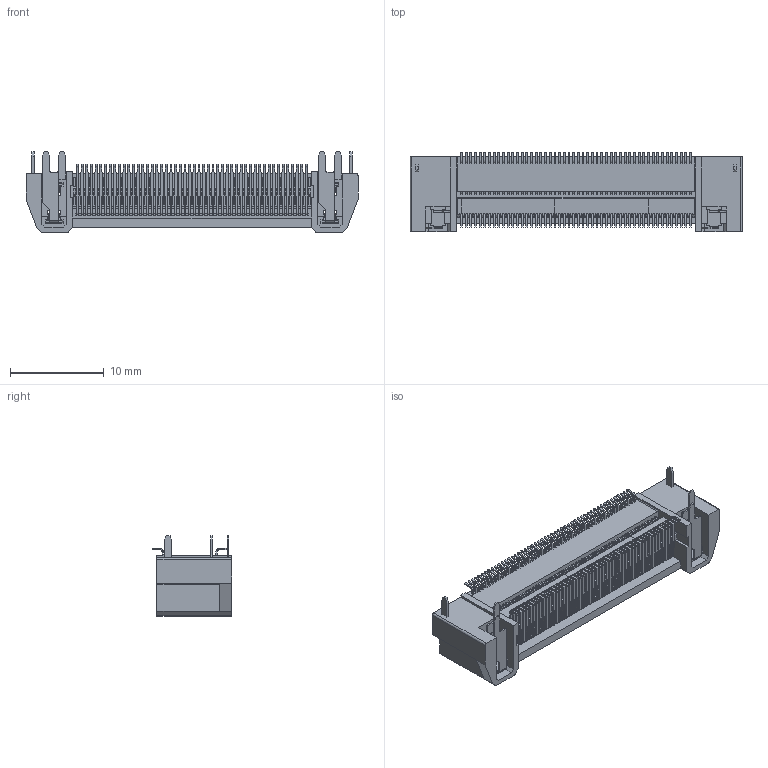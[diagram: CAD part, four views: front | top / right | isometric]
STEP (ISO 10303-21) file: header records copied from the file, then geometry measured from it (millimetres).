
FILE_DESCRIPTION (( 'STEP AP214' ), '1' );
FILE_NAME ('2631-100FG03DRNT-1141112.STEP', '2025-11-12T06:25:53', ( '' ), ( '' ), 'SwSTEP 2.0', 'SolidWorks 2020', '' );
FILE_SCHEMA (( 'AUTOMOTIVE_DESIGN' ));
Length unit declared in the file: millimetre
Products named in the file (2): 2631-100FG03DRNT-1141112
Assembly tree (1 placements, depth 2):
  2631-100FG03DRNT-1141112
    2631-100FG03DRNT-1141112
Bounding box: 35.5 x 8.5 x 8.65 mm (x, y, z)
Volume: 928.8 mm3; surface area: 3452.6 mm2
Topology: 109 solids, 109 shells, 6969 faces, 19322 edges, 12666 vertices
Faces by surface type: plane 5495, cylinder 1474
Entity records: 267763 total; most frequent: CARTESIAN_POINT 43761, ORIENTED_EDGE 38644, DIRECTION 33416, EDGE_CURVE 19322, LINE 15974, VECTOR 15974, VERTEX_POINT 12666, AXIS2_PLACEMENT_3D 8721
